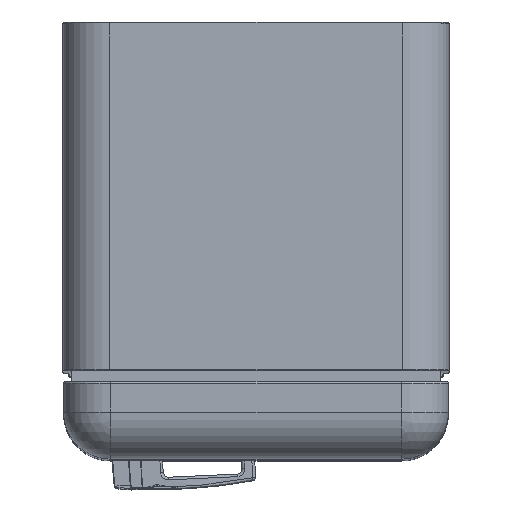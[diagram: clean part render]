
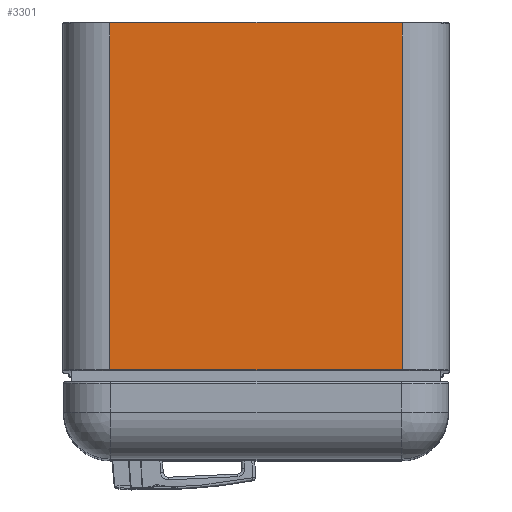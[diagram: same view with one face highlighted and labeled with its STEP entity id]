
A CAD part, top view. The second image highlights one B-rep face of the part: STEP entity #3301.
In plain terms, the highlighted planar face has unit normal (0, 0, 1).
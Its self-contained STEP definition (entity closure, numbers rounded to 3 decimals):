
#2209=EDGE_CURVE('Senza Nome[10]',#6882,#6883,#6884,.T.);
#2722=EDGE_CURVE('Senza Nome[10]',#6883,#7754,#7755,.T.);
#3301=ADVANCED_FACE('Senza Nome[10]',(#8617),#8618,.F.);
#3415=EDGE_CURVE('Senza Nome[10]',#7204,#6882,#8782,.T.);
#3914=EDGE_CURVE('Senza Nome[10]',#7754,#7204,#9485,.T.);
#6882=VERTEX_POINT('',#13072);
#6883=VERTEX_POINT('',#13073);
#6884=LINE('',#13074,#13075);
#7204=VERTEX_POINT('',#14121);
#7754=VERTEX_POINT('',#17076);
#7755=LINE('',#17077,#17078);
#8617=FACE_OUTER_BOUND('',#20793,.T.);
#8618=PLANE('',#20794);
#8782=LINE('',#21689,#21690);
#9485=LINE('',#24666,#24667);
#13072=CARTESIAN_POINT('',(414.746,476.639,1857.5));
#13073=CARTESIAN_POINT('',(414.746,-62.361,1857.5));
#13074=CARTESIAN_POINT('',(414.746,207.139,1857.5));
#13075=VECTOR('',#36712,1.0);
#14121=CARTESIAN_POINT('',(-39.254,476.639,1857.5));
#17076=CARTESIAN_POINT('',(-39.254,-62.361,1857.5));
#17077=CARTESIAN_POINT('',(187.746,-62.361,1857.5));
#17078=VECTOR('',#37649,1.0);
#20793=EDGE_LOOP('',(#38459,#38460,#38461,#38462));
#20794=AXIS2_PLACEMENT_3D('',#38463,#38464,#38465);
#21689=CARTESIAN_POINT('',(187.746,476.639,1857.5));
#21690=VECTOR('',#38638,1.0);
#24666=CARTESIAN_POINT('',(-39.254,207.139,1857.5));
#24667=VECTOR('',#39399,1.0);
#36712=DIRECTION('',(0.0,-1.0,0.0));
#37649=DIRECTION('',(-1.0,0.0,0.0));
#38459=ORIENTED_EDGE('',*,*,#3415,.F.);
#38460=ORIENTED_EDGE('',*,*,#3914,.F.);
#38461=ORIENTED_EDGE('',*,*,#2722,.F.);
#38462=ORIENTED_EDGE('',*,*,#2209,.F.);
#38463=CARTESIAN_POINT('',(187.746,207.139,1857.5));
#38464=DIRECTION('',(0.0,0.0,-1.0));
#38465=DIRECTION('',(0.0,1.0,0.0));
#38638=DIRECTION('',(1.0,0.0,0.0));
#39399=DIRECTION('',(0.0,1.0,0.0));
